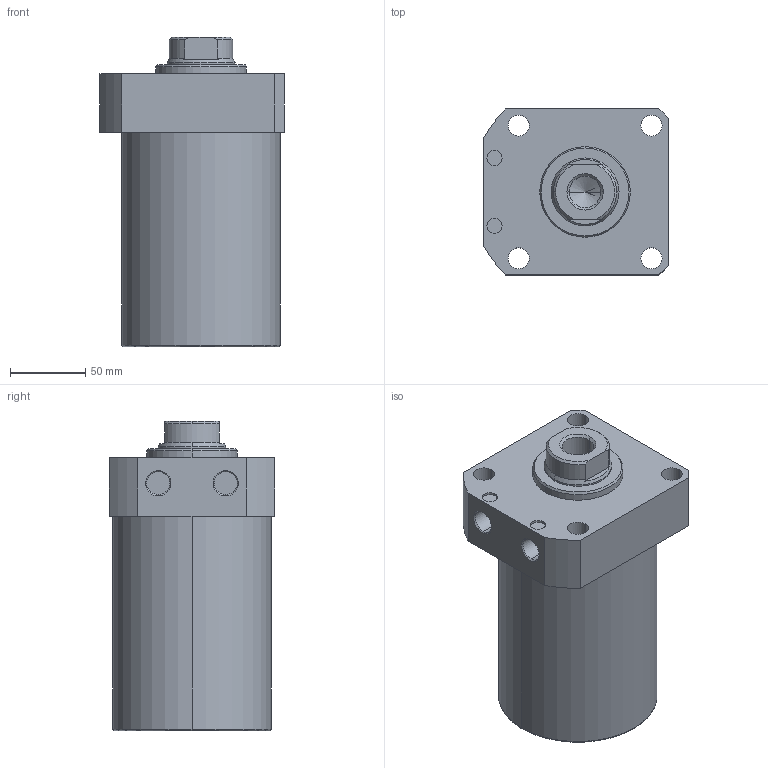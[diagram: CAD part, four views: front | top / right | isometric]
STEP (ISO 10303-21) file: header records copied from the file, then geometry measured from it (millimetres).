
FILE_DESCRIPTION (( 'STEP AP203' ), '1' );
FILE_NAME ('CLLR-105CA-095.STEP', '2019-12-18T07:08:45', ( '' ), ( '' ), 'SwSTEP 2.0', 'SolidWorks 2015', '' );
FILE_SCHEMA (( 'CONFIG_CONTROL_DESIGN' ));
Length unit declared in the file: millimetre
Products named in the file (1): CLLR-105CA-095
Bounding box: 122 x 110 x 205 mm (x, y, z)
Volume: 1726738.6 mm3; surface area: 105426.4 mm2
Topology: 1 solids, 1 shells, 65 faces, 153 edges, 96 vertices
Faces by surface type: cylinder 29, plane 19, cone 15, torus 2
Entity records: 1971 total; most frequent: DIRECTION 352, CARTESIAN_POINT 337, ORIENTED_EDGE 302, EDGE_CURVE 151, AXIS2_PLACEMENT_3D 143, VERTEX_POINT 96, EDGE_LOOP 81, CIRCLE 77
